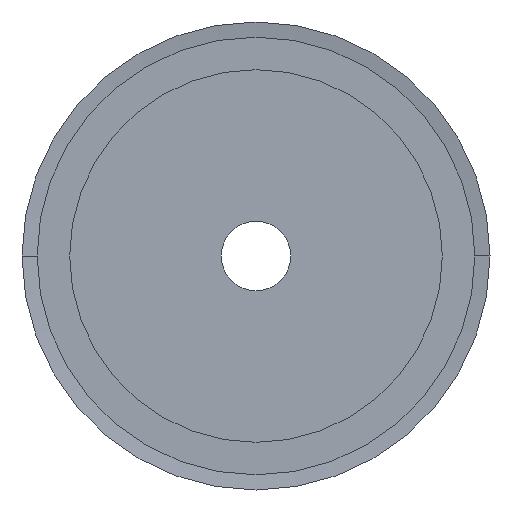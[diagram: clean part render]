
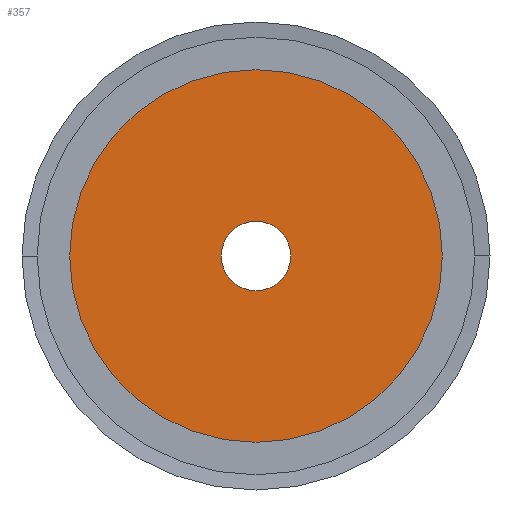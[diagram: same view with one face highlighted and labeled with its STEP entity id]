
A CAD part, left-side view. The second image highlights one B-rep face of the part: STEP entity #357.
In plain terms, the highlighted planar face has unit normal (-1, 0, 0).
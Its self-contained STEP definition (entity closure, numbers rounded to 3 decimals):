
#357 = ADVANCED_FACE( '', ( #929, #930 ), #931, .T. );
#929 = FACE_BOUND( '', #1502, .T. );
#930 = FACE_OUTER_BOUND( '', #1503, .T. );
#931 = PLANE( '', #1504 );
#1502 = EDGE_LOOP( '', ( #3987, #3988 ) );
#1503 = EDGE_LOOP( '', ( #3989, #3990 ) );
#1504 = AXIS2_PLACEMENT_3D( '', #3991, #3992, #3993 );
#3987 = ORIENTED_EDGE( '', *, *, #4033, .T. );
#3988 = ORIENTED_EDGE( '', *, *, #4029, .T. );
#3989 = ORIENTED_EDGE( '', *, *, #3997, .T. );
#3990 = ORIENTED_EDGE( '', *, *, #4813, .T. );
#3991 = CARTESIAN_POINT( '', ( 0., 10.75, 0. ) );
#3992 = DIRECTION( '', ( -1., 0., 0. ) );
#3993 = DIRECTION( '', ( 0., 1., 0. ) );
#3997 = EDGE_CURVE( '', #4815, #4819, #4821, .T. );
#4029 = EDGE_CURVE( '', #4879, #4876, #4880, .T. );
#4033 = EDGE_CURVE( '', #4876, #4879, #4885, .T. );
#4813 = EDGE_CURVE( '', #4819, #4815, #6177, .T. );
#4815 = VERTEX_POINT( '', #6179 );
#4819 = VERTEX_POINT( '', #6184 );
#4821 = CIRCLE( '', #6187, 21.5 );
#4876 = VERTEX_POINT( '', #6258 );
#4879 = VERTEX_POINT( '', #6262 );
#4880 = CIRCLE( '', #6263, 4. );
#4885 = CIRCLE( '', #6269, 4. );
#6177 = CIRCLE( '', #8009, 21.5 );
#6179 = CARTESIAN_POINT( '', ( 0., 21.5, 0. ) );
#6184 = CARTESIAN_POINT( '', ( 0., -21.5, 0. ) );
#6187 = AXIS2_PLACEMENT_3D( '', #8015, #8016, #8017 );
#6258 = CARTESIAN_POINT( '', ( 0., 4., 0. ) );
#6262 = CARTESIAN_POINT( '', ( 0., -4., 0. ) );
#6263 = AXIS2_PLACEMENT_3D( '', #8077, #8078, #8079 );
#6269 = AXIS2_PLACEMENT_3D( '', #8087, #8088, #8089 );
#8009 = AXIS2_PLACEMENT_3D( '', #9531, #9532, #9533 );
#8015 = CARTESIAN_POINT( '', ( 0., 0., 0. ) );
#8016 = DIRECTION( '', ( -1., 0., 0. ) );
#8017 = DIRECTION( '', ( 0., 1., 0. ) );
#8077 = CARTESIAN_POINT( '', ( 0., 0., 0. ) );
#8078 = DIRECTION( '', ( 1., 0., 0. ) );
#8079 = DIRECTION( '', ( 0., 1., 0. ) );
#8087 = CARTESIAN_POINT( '', ( 0., 0., 0. ) );
#8088 = DIRECTION( '', ( 1., 0., 0. ) );
#8089 = DIRECTION( '', ( 0., 1., 0. ) );
#9531 = CARTESIAN_POINT( '', ( 0., 0., 0. ) );
#9532 = DIRECTION( '', ( -1., 0., 0. ) );
#9533 = DIRECTION( '', ( 0., 1., 0. ) );
